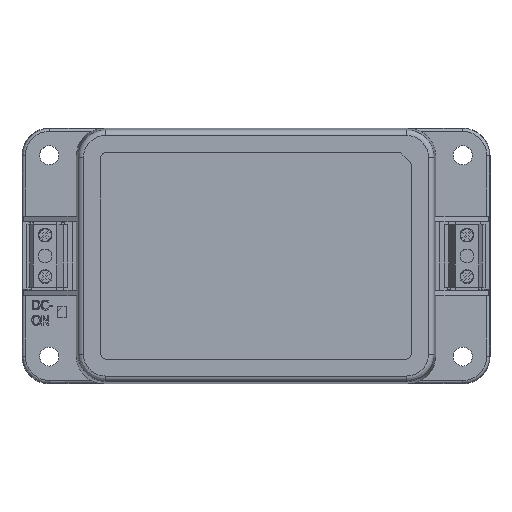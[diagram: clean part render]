
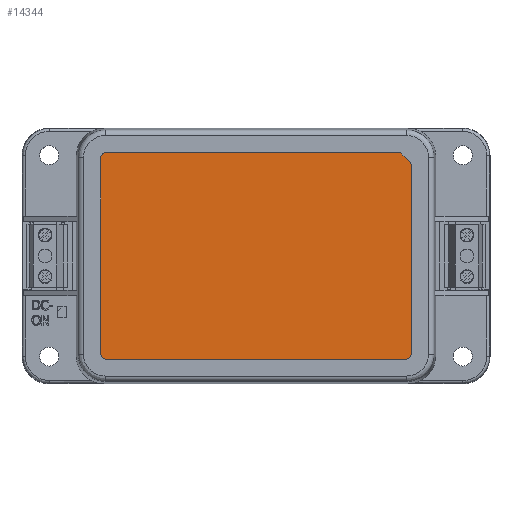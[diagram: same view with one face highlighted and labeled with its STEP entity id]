
A CAD part, top view. The second image highlights one B-rep face of the part: STEP entity #14344.
In plain terms, the highlighted planar face has unit normal (0, 0, 1).
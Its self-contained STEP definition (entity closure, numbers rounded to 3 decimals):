
#499=CIRCLE('',#15216,1.);
#501=CIRCLE('',#15220,1.);
#503=CIRCLE('',#15224,1.);
#505=CIRCLE('',#15228,1.);
#507=CIRCLE('',#15231,1.);
#1134=FACE_OUTER_BOUND('',#1896,.T.);
#1896=EDGE_LOOP('',(#11248,#11249,#11250,#11251,#11252,#11253,#11254,#11255,
#11256,#11257));
#3352=LINE('',#21778,#4954);
#3356=LINE('',#21790,#4958);
#3360=LINE('',#21802,#4962);
#3365=LINE('',#21816,#4967);
#3366=LINE('',#21818,#4968);
#4954=VECTOR('',#17954,55.);
#4958=VECTOR('',#17966,36.);
#4962=VECTOR('',#17978,53.586);
#4967=VECTOR('',#17991,34.586);
#4968=VECTOR('',#17992,2.);
#6283=VERTEX_POINT('',#21768);
#6284=VERTEX_POINT('',#21769);
#6287=VERTEX_POINT('',#21777);
#6289=VERTEX_POINT('',#21783);
#6291=VERTEX_POINT('',#21789);
#6293=VERTEX_POINT('',#21795);
#6295=VERTEX_POINT('',#21801);
#6297=VERTEX_POINT('',#21807);
#6298=VERTEX_POINT('',#21808);
#6301=VERTEX_POINT('',#21817);
#8024=EDGE_CURVE('',#6283,#6284,#499,.T.);
#8028=EDGE_CURVE('',#6283,#6287,#3352,.T.);
#8031=EDGE_CURVE('',#6289,#6287,#501,.T.);
#8034=EDGE_CURVE('',#6289,#6291,#3356,.T.);
#8037=EDGE_CURVE('',#6293,#6291,#503,.T.);
#8040=EDGE_CURVE('',#6293,#6295,#3360,.T.);
#8043=EDGE_CURVE('',#6297,#6298,#505,.T.);
#8047=EDGE_CURVE('',#6297,#6284,#3365,.T.);
#8048=EDGE_CURVE('',#6298,#6301,#3366,.T.);
#8049=EDGE_CURVE('',#6301,#6295,#507,.T.);
#11248=ORIENTED_EDGE('',*,*,#8024,.T.);
#11249=ORIENTED_EDGE('',*,*,#8047,.F.);
#11250=ORIENTED_EDGE('',*,*,#8043,.T.);
#11251=ORIENTED_EDGE('',*,*,#8048,.T.);
#11252=ORIENTED_EDGE('',*,*,#8049,.T.);
#11253=ORIENTED_EDGE('',*,*,#8040,.F.);
#11254=ORIENTED_EDGE('',*,*,#8037,.T.);
#11255=ORIENTED_EDGE('',*,*,#8034,.F.);
#11256=ORIENTED_EDGE('',*,*,#8031,.T.);
#11257=ORIENTED_EDGE('',*,*,#8028,.F.);
#13021=PLANE('',#15230);
#14344=ADVANCED_FACE('',(#1134),#13021,.F.);
#15216=AXIS2_PLACEMENT_3D('',#21770,#17946,#17947);
#15220=AXIS2_PLACEMENT_3D('',#21784,#17959,#17960);
#15224=AXIS2_PLACEMENT_3D('',#21796,#17971,#17972);
#15228=AXIS2_PLACEMENT_3D('',#21809,#17983,#17984);
#15230=AXIS2_PLACEMENT_3D('',#21815,#17989,#17990);
#15231=AXIS2_PLACEMENT_3D('',#21819,#17993,#17994);
#17946=DIRECTION('center_axis',(0.,0.,1.));
#17947=DIRECTION('ref_axis',(0.707,-0.707,0.));
#17954=DIRECTION('',(-1.,0.,0.));
#17959=DIRECTION('center_axis',(0.,0.,1.));
#17960=DIRECTION('ref_axis',(-0.707,-0.707,0.));
#17966=DIRECTION('',(0.,1.,0.));
#17971=DIRECTION('center_axis',(0.,0.,1.));
#17972=DIRECTION('ref_axis',(-0.707,0.707,0.));
#17978=DIRECTION('',(1.,0.,0.));
#17983=DIRECTION('center_axis',(0.,0.,1.));
#17984=DIRECTION('ref_axis',(0.924,0.383,0.));
#17989=DIRECTION('center_axis',(0.,0.,-1.));
#17990=DIRECTION('ref_axis',(-1.,0.,0.));
#17991=DIRECTION('',(0.,-1.,0.));
#17992=DIRECTION('',(-0.707,0.707,0.));
#17993=DIRECTION('center_axis',(0.,0.,1.));
#17994=DIRECTION('ref_axis',(0.383,0.924,0.));
#21768=CARTESIAN_POINT('',(27.5,-19.,23.85));
#21769=CARTESIAN_POINT('',(28.5,-18.,23.85));
#21770=CARTESIAN_POINT('Origin',(27.5,-18.,23.85));
#21777=CARTESIAN_POINT('',(-27.5,-19.,23.85));
#21778=CARTESIAN_POINT('',(28.5,-19.,23.85));
#21783=CARTESIAN_POINT('',(-28.5,-18.,23.85));
#21784=CARTESIAN_POINT('Origin',(-27.5,-18.,23.85));
#21789=CARTESIAN_POINT('',(-28.5,18.,23.85));
#21790=CARTESIAN_POINT('',(-28.5,-19.,23.85));
#21795=CARTESIAN_POINT('',(-27.5,19.,23.85));
#21796=CARTESIAN_POINT('Origin',(-27.5,18.,23.85));
#21801=CARTESIAN_POINT('',(26.086,19.,23.85));
#21802=CARTESIAN_POINT('',(-28.5,19.,23.85));
#21807=CARTESIAN_POINT('',(28.5,16.586,23.85));
#21808=CARTESIAN_POINT('',(28.207,17.293,23.85));
#21809=CARTESIAN_POINT('Origin',(27.5,16.586,23.85));
#21815=CARTESIAN_POINT('Origin',(0.,0.,23.85));
#21816=CARTESIAN_POINT('',(28.5,19.,23.85));
#21817=CARTESIAN_POINT('',(26.793,18.707,23.85));
#21818=CARTESIAN_POINT('',(25.125,20.375,23.85));
#21819=CARTESIAN_POINT('Origin',(26.086,18.,23.85));
